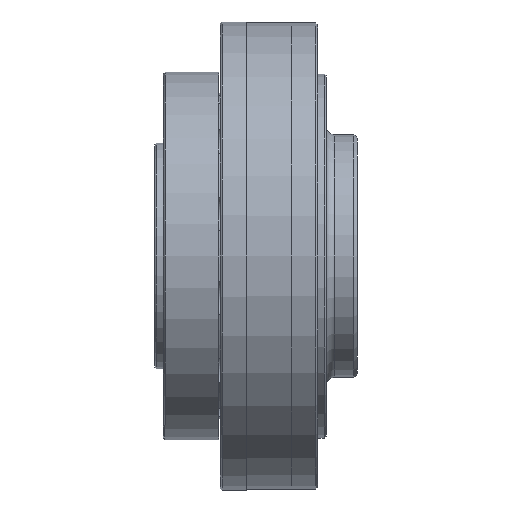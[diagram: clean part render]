
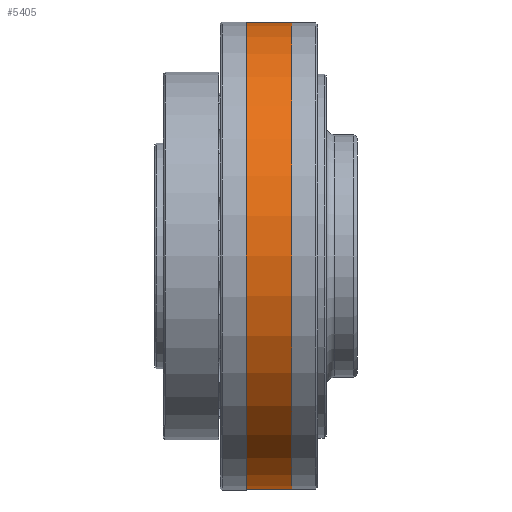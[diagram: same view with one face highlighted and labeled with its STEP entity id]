
A CAD part, front view. The second image highlights one B-rep face of the part: STEP entity #5405.
In plain terms, the highlighted cylindrical face has radius 134.5 mm (diameter 269 mm), a full revolution.
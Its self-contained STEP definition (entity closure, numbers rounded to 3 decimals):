
#501=CYLINDRICAL_SURFACE('',#6105,134.5);
#673=FACE_OUTER_BOUND('',#999,.T.);
#999=EDGE_LOOP('',(#3949,#3950,#3951,#3952,#3953,#3954));
#1467=LINE('',#9050,#1701);
#1701=VECTOR('',#7107,134.5);
#1976=CIRCLE('',#6103,134.5);
#1977=CIRCLE('',#6104,134.5);
#1978=CIRCLE('',#6106,134.5);
#1979=CIRCLE('',#6107,134.5);
#2503=VERTEX_POINT('',#9041);
#2504=VERTEX_POINT('',#9042);
#2505=VERTEX_POINT('',#9046);
#2506=VERTEX_POINT('',#9047);
#3091=EDGE_CURVE('',#2503,#2504,#1976,.T.);
#3092=EDGE_CURVE('',#2504,#2503,#1977,.T.);
#3093=EDGE_CURVE('',#2505,#2506,#1978,.T.);
#3094=EDGE_CURVE('',#2506,#2505,#1979,.T.);
#3095=EDGE_CURVE('',#2506,#2504,#1467,.T.);
#3949=ORIENTED_EDGE('',*,*,#3093,.F.);
#3950=ORIENTED_EDGE('',*,*,#3094,.F.);
#3951=ORIENTED_EDGE('',*,*,#3095,.T.);
#3952=ORIENTED_EDGE('',*,*,#3092,.T.);
#3953=ORIENTED_EDGE('',*,*,#3091,.T.);
#3954=ORIENTED_EDGE('',*,*,#3095,.F.);
#5405=ADVANCED_FACE('',(#673),#501,.T.);
#6103=AXIS2_PLACEMENT_3D('',#9043,#7097,#7098);
#6104=AXIS2_PLACEMENT_3D('',#9044,#7099,#7100);
#6105=AXIS2_PLACEMENT_3D('',#9045,#7101,#7102);
#6106=AXIS2_PLACEMENT_3D('',#9048,#7103,#7104);
#6107=AXIS2_PLACEMENT_3D('',#9049,#7105,#7106);
#7097=DIRECTION('center_axis',(1.,0.,0.));
#7098=DIRECTION('ref_axis',(0.,1.,0.));
#7099=DIRECTION('center_axis',(1.,0.,0.));
#7100=DIRECTION('ref_axis',(0.,1.,0.));
#7101=DIRECTION('center_axis',(1.,0.,0.));
#7102=DIRECTION('ref_axis',(0.,1.,0.));
#7103=DIRECTION('center_axis',(1.,0.,0.));
#7104=DIRECTION('ref_axis',(0.,1.,0.));
#7105=DIRECTION('center_axis',(1.,0.,0.));
#7106=DIRECTION('ref_axis',(0.,1.,0.));
#7107=DIRECTION('',(-1.,0.,0.));
#9041=CARTESIAN_POINT('',(15.,134.5,0.));
#9042=CARTESIAN_POINT('',(15.,-134.5,0.));
#9043=CARTESIAN_POINT('Origin',(15.,0.,0.));
#9044=CARTESIAN_POINT('Origin',(15.,0.,0.));
#9045=CARTESIAN_POINT('Origin',(28.,0.,0.));
#9046=CARTESIAN_POINT('',(41.,134.5,0.));
#9047=CARTESIAN_POINT('',(41.,-134.5,0.));
#9048=CARTESIAN_POINT('Origin',(41.,0.,0.));
#9049=CARTESIAN_POINT('Origin',(41.,0.,0.));
#9050=CARTESIAN_POINT('',(28.,-134.5,0.));
